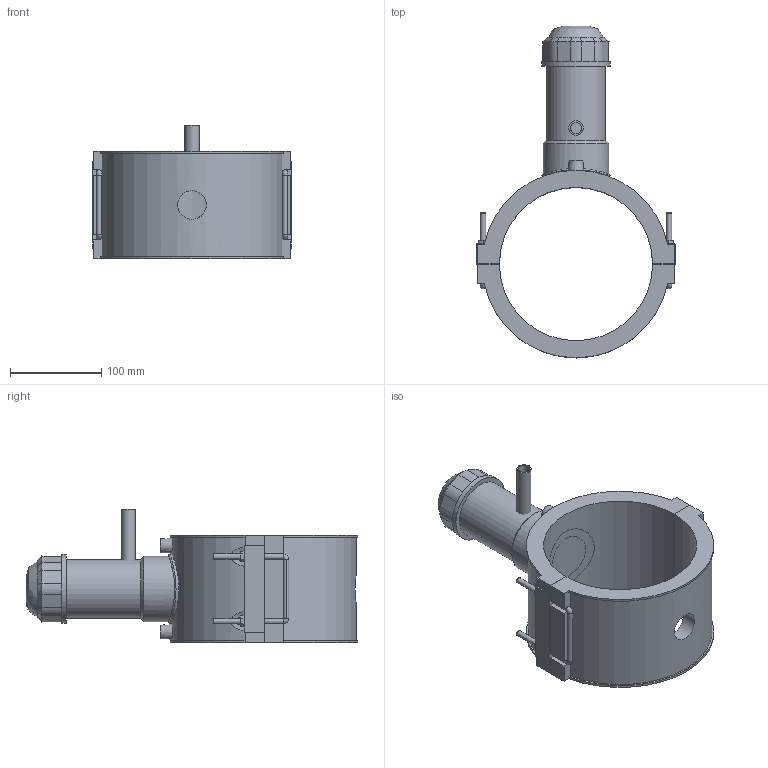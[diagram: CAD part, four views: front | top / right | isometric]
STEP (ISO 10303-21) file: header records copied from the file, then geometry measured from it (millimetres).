
FILE_DESCRIPTION(/* description */ ('PLASSON TAPPING SADDLE 6''''IPS x 1/2''''CTS'),/* implementation_level */ '2;1');
FILE_NAME(/* name */ 'C:\Dropbox\KIMPROJECTS-Inventor 2019\99-16-3568-Processing Inch\ASTM ElectroFusion 2021\5963BBP_5963BUP\5963BUP3060005.ipt.stp',/* time_stamp */ '2021-08-30T09:57:51+03:00',/* author */ ('KIM'),/* organization */ (''),/* preprocessor_version */ 'ST-DEVELOPER v17.2',/* originating_system */ 'Autodesk Inventor 2019',/* authorisation */ '');
FILE_SCHEMA (('AUTOMOTIVE_DESIGN { 1 0 10303 214 3 1 1 }'));
Length unit declared in the file: inch
Products named in the file (1): 5963BUP3060005
Bounding box: 217.9 x 363.85 x 146.43 mm (x, y, z)
Volume: 1600728.2 mm3; surface area: 265595.8 mm2
Topology: 3 solids, 3 shells, 187 faces, 489 edges, 313 vertices
Faces by surface type: plane 115, cylinder 47, cone 15, bspline 10
Full cylindrical faces by diameter (mm): 4 x2, 6 x8, 10 x2, 12.64 x1, 15.8 x1, 31.36 x1, 52.92 x1, 64.26 x1, 71.82 x1, 75.6 x2
Entity records: 6744 total; most frequent: CARTESIAN_POINT 2109, ORIENTED_EDGE 962, DIRECTION 932, EDGE_CURVE 481, AXIS2_PLACEMENT_3D 315, VERTEX_POINT 313, LINE 302, VECTOR 302
